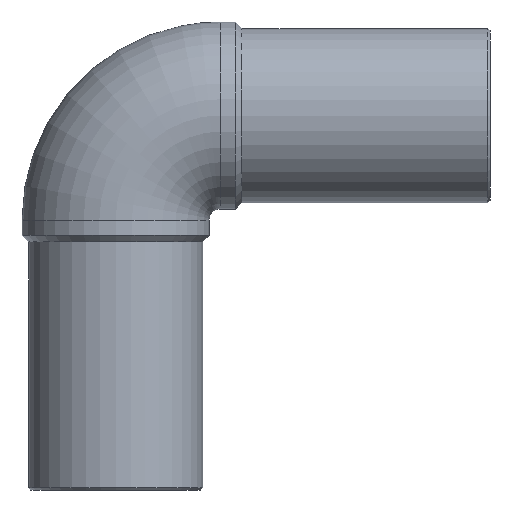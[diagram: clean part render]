
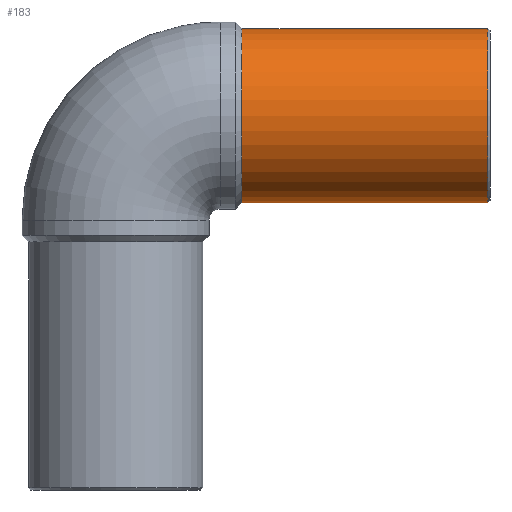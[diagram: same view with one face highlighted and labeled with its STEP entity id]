
A CAD part, front view. The second image highlights one B-rep face of the part: STEP entity #183.
In plain terms, the highlighted cylindrical face has radius 20 mm (diameter 40 mm), a full revolution.
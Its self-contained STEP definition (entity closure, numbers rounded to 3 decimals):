
#29=CYLINDRICAL_SURFACE('',#212,20.);
#37=ORIENTED_EDGE('',*,*,#75,.F.);
#38=ORIENTED_EDGE('',*,*,#74,.F.);
#74=EDGE_CURVE('',#93,#93,#111,.T.);
#75=EDGE_CURVE('',#94,#94,#112,.F.);
#93=VERTEX_POINT('',#303);
#94=VERTEX_POINT('',#306);
#111=CIRCLE('',#211,20.);
#112=CIRCLE('',#213,20.);
#126=EDGE_LOOP('',(#37));
#127=EDGE_LOOP('',(#38));
#153=FACE_BOUND('',#126,.T.);
#154=FACE_BOUND('',#127,.T.);
#183=ADVANCED_FACE('',(#153,#154),#29,.T.);
#211=AXIS2_PLACEMENT_3D('',#302,#244,#245);
#212=AXIS2_PLACEMENT_3D('',#304,#246,#247);
#213=AXIS2_PLACEMENT_3D('',#305,#248,#249);
#244=DIRECTION('',(-1.,0.,0.));
#245=DIRECTION('',(0.,0.,1.));
#246=DIRECTION('',(1.,0.,0.));
#247=DIRECTION('',(0.,0.,1.));
#248=DIRECTION('',(-1.,0.,0.));
#249=DIRECTION('',(0.,0.,1.));
#302=CARTESIAN_POINT('',(29.,0.,86.));
#303=CARTESIAN_POINT('',(29.,0.,106.));
#304=CARTESIAN_POINT('',(86.,0.,86.));
#305=CARTESIAN_POINT('',(85.5,0.,86.));
#306=CARTESIAN_POINT('',(85.5,0.,106.));
